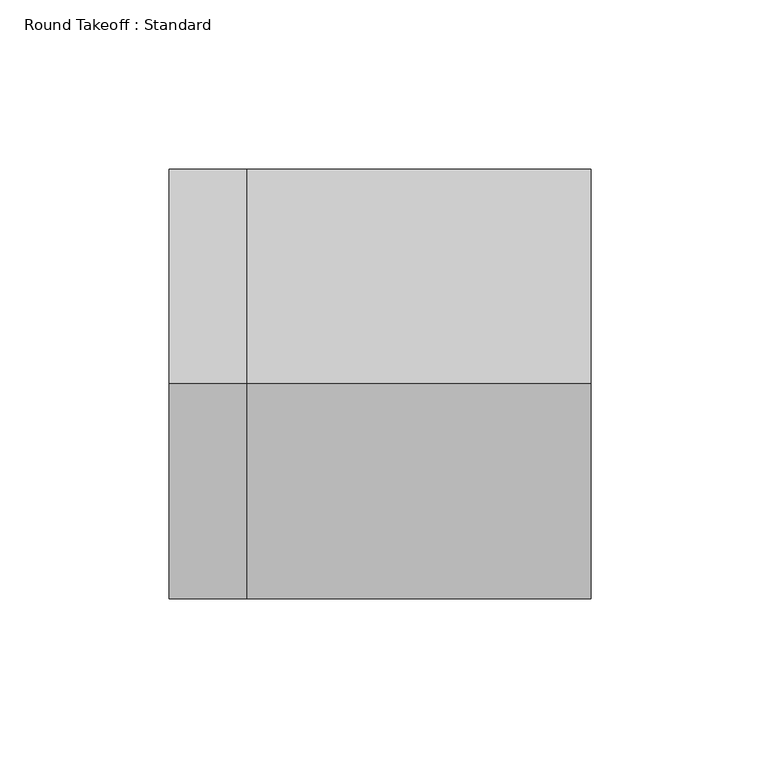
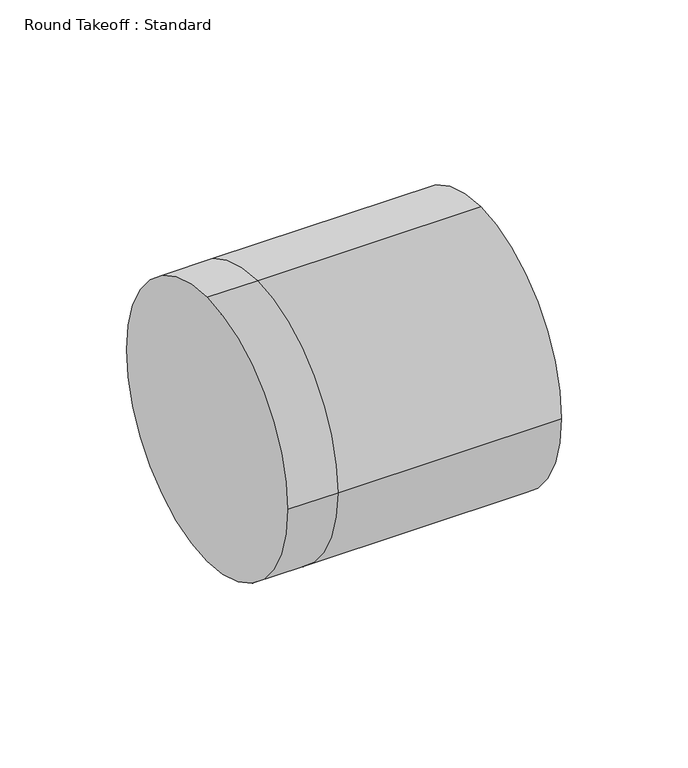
"""IFC4 building model written with IfcOpenShell, lengths in millimetres: duct fitting geometry, Round Takeoff : Standard."""

from ifc_helpers import new_model, si_unit, frame, origin, place, context, project, spatial, circle_curve, source, transform, mapped, element, save
from ifc_brep_helpers import plane_surface, cylinder_surface, advanced_brep


def round_takeoff_standard_e4d44d96(model_context):
    return source(origin(), model_context, "Body", "AdvancedBrep", [
        advanced_brep(
        [(101.6, 0.0, 63.5), (101.6, -63.5, 0.0), (101.6, 0.0, -63.5), (101.6, 63.5, 0.0), (0.0, 0.0, 63.5), (0.0, -63.5, 0.0), (0.0, 0.0, -63.5), (0.0, 63.5, 0.0), (-23.1107737, 0.0, 63.5), (-23.1107737, 63.5, 0.0), (-23.1107737, 0.0, -63.5), (-23.1107737, -63.5, 0.0)],
        [
            (0, 1, circle_curve(frame((101.6, 0.0, 0.0), z_axis=(1.0, 0.0, 0.0), x_axis=(0.0, -1.0, 0.0)), 63.5)),
            (1, 2, circle_curve(frame((101.6, 0.0, 0.0), z_axis=(1.0, 0.0, 0.0), x_axis=(0.0, -1.0, 0.0)), 63.5)),
            (2, 3, circle_curve(frame((101.6, 0.0, 0.0), z_axis=(1.0, 0.0, 0.0), x_axis=(0.0, -1.0, 0.0)), 63.5)),
            (3, 0, circle_curve(frame((101.6, 0.0, 0.0), z_axis=(1.0, 0.0, 0.0), x_axis=(0.0, -1.0, 0.0)), 63.5)),
            (0, 4),
            (4, 5, circle_curve(frame((0.0, 0.0, 0.0), z_axis=(1.0, 0.0, 0.0), x_axis=(0.0, -1.0, 0.0)), 63.5)),
            (5, 1),
            (5, 6, circle_curve(frame((0.0, 0.0, 0.0), z_axis=(1.0, 0.0, 0.0), x_axis=(0.0, -1.0, 0.0)), 63.5)),
            (6, 2),
            (6, 7, circle_curve(frame((0.0, 0.0, 0.0), z_axis=(1.0, 0.0, 0.0), x_axis=(0.0, -1.0, 0.0)), 63.5)),
            (7, 3),
            (7, 4, circle_curve(frame((0.0, 0.0, 0.0), z_axis=(1.0, 0.0, 0.0), x_axis=(0.0, -1.0, 0.0)), 63.5)),
            (8, 9, circle_curve(frame((-23.1107737, 0.0, 0.0), z_axis=(-1.0, 0.0, 0.0), x_axis=(0.0, -1.0, 0.0)), 63.5)),
            (9, 10, circle_curve(frame((-23.1107737, 0.0, 0.0), z_axis=(-1.0, 0.0, 0.0), x_axis=(0.0, -1.0, 0.0)), 63.5)),
            (10, 11, circle_curve(frame((-23.1107737, 0.0, 0.0), z_axis=(-1.0, 0.0, 0.0), x_axis=(0.0, -1.0, 0.0)), 63.5)),
            (11, 8, circle_curve(frame((-23.1107737, 0.0, 0.0), z_axis=(-1.0, 0.0, 0.0), x_axis=(0.0, -1.0, 0.0)), 63.5)),
            (11, 5),
            (4, 8),
            (10, 6),
            (9, 7),
        ],
        [
            plane_surface(frame((101.6, 0.0, 0.0), z_axis=(1.0, 0.0, 0.0), x_axis=(0.0, 0.0, 1.0))),
            cylinder_surface(frame((0.0, 0.0, 0.0), z_axis=(-1.0, 0.0, 0.0), x_axis=(0.0, -1.0, 0.0)), 63.5),
            plane_surface(frame((-23.1107737, 0.0, 0.0), z_axis=(-1.0, 0.0, 0.0), x_axis=(0.0, 0.0, 1.0))),
            cylinder_surface(frame((-23.1107737, 0.0, 0.0), z_axis=(-1.0, 0.0, 0.0), x_axis=(0.0, -1.0, 0.0)), 63.5),
        ],
        [
            (0, [[1, 2, 3, 4]]),
            (1, [[5, 6, 7, -1]]),
            (1, [[-7, 8, 9, -2]]),
            (1, [[-9, 10, 11, -3]]),
            (1, [[-11, 12, -5, -4]]),
            (2, [[13, 14, 15, 16]]),
            (3, [[17, -6, 18, -16]]),
            (3, [[19, -8, -17, -15]]),
            (3, [[20, -10, -19, -14]]),
            (3, [[-18, -12, -20, -13]]),
        ],
    ),
    ])


if __name__ == "__main__":
    model = new_model("IFC4")
    model_context = context("Model", 3, world=origin())
    ifc_project = project(units=[si_unit("LENGTHUNIT", "METRE", prefix="MILLI")], contexts=[model_context])
    site = spatial("IfcSite", under=ifc_project)
    building = spatial("IfcBuilding", under=site)
    placement = place(None, origin())
    round_takeoff_standard_shape = round_takeoff_standard_e4d44d96(model_context)
    element("IfcDuctFitting", 1, ObjectType="Round Takeoff : Standard", at=placement, inside=building, context=model_context, shape_type="MappedRepresentation", body=[
        mapped(round_takeoff_standard_shape, transform((0.0, 0.0, 0.0), x_axis=(1.0, 0.0, 0.0), y_axis=(0.0, 1.0, 0.0), z_axis=(0.0, 0.0, 1.0))),
    ])
    save(model, "model.ifc")
